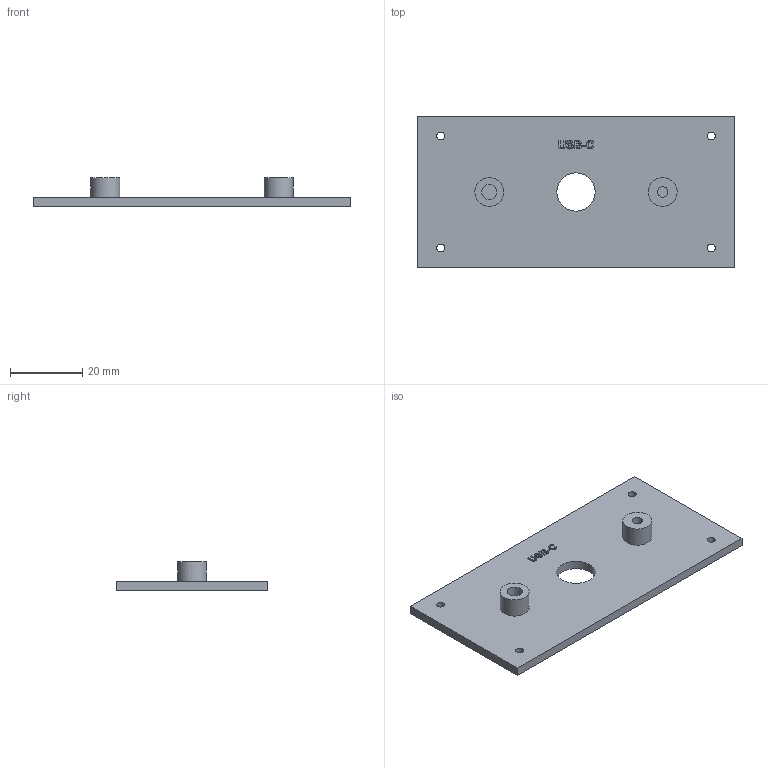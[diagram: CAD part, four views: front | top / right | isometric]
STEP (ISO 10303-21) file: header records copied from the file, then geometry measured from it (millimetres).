
FILE_DESCRIPTION(('Open CASCADE Model'),'2;1');
FILE_NAME('Open CASCADE Shape Model','2026-10-18T19:44:56',('Author'),( 'Open CASCADE'),'Open CASCADE STEP processor 7.9','Open CASCADE 7.9' ,'Unknown');
FILE_SCHEMA(('AUTOMOTIVE_DESIGN { 1 0 10303 214 1 1 1 1 }'));
Length unit declared in the file: millimetre
Products named in the file (1): Open CASCADE STEP translator 7.9 7
Bounding box: 88 x 42 x 8 mm (x, y, z)
Volume: 9425.8 mm3; surface area: 8405.6 mm2
Topology: 1 solids, 1 shells, 131 faces, 354 edges, 236 vertices
Faces by surface type: extrusion 82, plane 40, cylinder 9
Full cylindrical faces by diameter (mm): 2.2 x4, 2.9 x1, 4.2 x1, 8 x2, 10.6 x1
Entity records: 10092 total; most frequent: CARTESIAN_POINT 3798, DIRECTION 792, ORIENTED_EDGE 708, PCURVE 708, DEFINITIONAL_REPRESENTATION 708, VECTOR 652, LINE 570, B_SPLINE_CURVE_WITH_KNOTS 538
